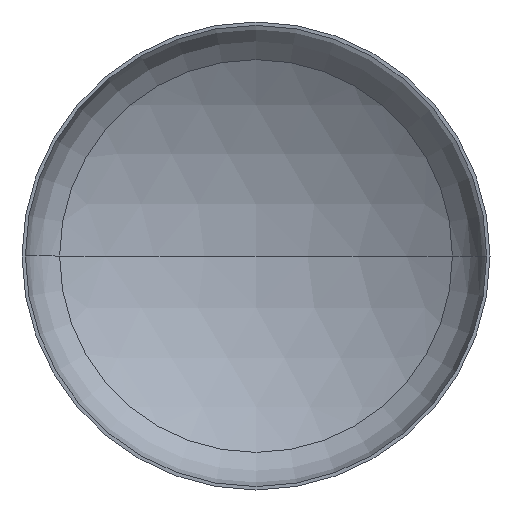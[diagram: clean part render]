
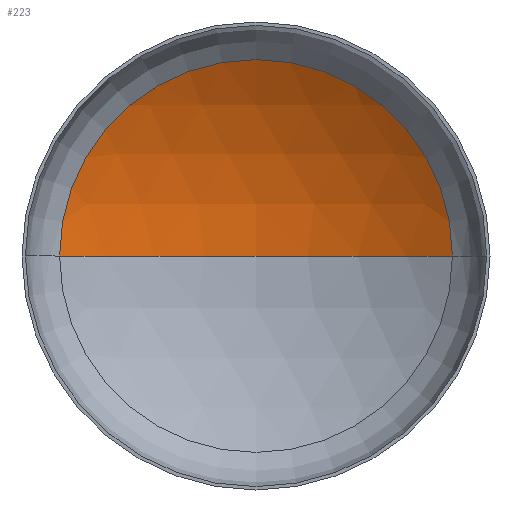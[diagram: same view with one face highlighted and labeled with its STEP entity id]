
A CAD part, front view. The second image highlights one B-rep face of the part: STEP entity #223.
In plain terms, the highlighted spherical face has radius 3200 mm.
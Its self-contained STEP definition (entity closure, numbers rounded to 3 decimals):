
#6 = EDGE_LOOP ( 'NONE', ( #67, #20, #11 ) ) ;
#11 = ORIENTED_EDGE ( 'NONE', *, *, #147, .T. ) ;
#12 = CARTESIAN_POINT ( 'NONE',  ( 0., -2110.793, 0. ) ) ;
#16 = DIRECTION ( 'NONE',  ( -1., 0., 0. ) ) ;
#20 = ORIENTED_EDGE ( 'NONE', *, *, #154, .T. ) ;
#21 = VERTEX_POINT ( 'NONE', #377 ) ;
#30 = VERTEX_POINT ( 'NONE', #267 ) ;
#37 = VERTEX_POINT ( 'NONE', #253 ) ;
#47 = AXIS2_PLACEMENT_3D ( 'NONE', #174, #245, #48 ) ;
#48 = DIRECTION ( 'NONE',  ( -1., 0., 0. ) ) ;
#67 = ORIENTED_EDGE ( 'NONE', *, *, #179, .F. ) ;
#75 = AXIS2_PLACEMENT_3D ( 'NONE', #187, #206, #207 ) ;
#82 = AXIS2_PLACEMENT_3D ( 'NONE', #12, #273, #16 ) ;
#93 = AXIS2_PLACEMENT_3D ( 'NONE', #213, #195, #197 ) ;
#147 = EDGE_CURVE ( 'NONE', #21, #37, #242, .T. ) ;
#150 = SPHERICAL_SURFACE ( 'NONE', #47, 3200. ) ;
#154 = EDGE_CURVE ( 'NONE', #30, #21, #405, .T. ) ;
#162 = CIRCLE ( 'NONE', #75, 3200. ) ;
#174 = CARTESIAN_POINT ( 'NONE',  ( 0., -2110.793, 0. ) ) ;
#179 = EDGE_CURVE ( 'NONE', #30, #37, #162, .T. ) ;
#187 = CARTESIAN_POINT ( 'NONE',  ( 0., -2110.793, 0. ) ) ;
#195 = DIRECTION ( 'NONE',  ( 0., -1., 0. ) ) ;
#197 = DIRECTION ( 'NONE',  ( 1., 0., 0. ) ) ;
#206 = DIRECTION ( 'NONE',  ( 0., 0., 1. ) ) ;
#207 = DIRECTION ( 'NONE',  ( 1., 0., 0. ) ) ;
#213 = CARTESIAN_POINT ( 'NONE',  ( 0., 613.593, 0. ) ) ;
#223 = ADVANCED_FACE ( 'NONE', ( #393 ), #150, .F. ) ;
#242 = CIRCLE ( 'NONE', #93, 1678.607 ) ;
#245 = DIRECTION ( 'NONE',  ( 0., 0., -1. ) ) ;
#253 = CARTESIAN_POINT ( 'NONE',  ( -1678.607, 613.593, 0. ) ) ;
#267 = CARTESIAN_POINT ( 'NONE',  ( 0., 1089.207, 0. ) ) ;
#273 = DIRECTION ( 'NONE',  ( 0., 0., -1. ) ) ;
#377 = CARTESIAN_POINT ( 'NONE',  ( 1678.607, 613.593, 0. ) ) ;
#393 = FACE_OUTER_BOUND ( 'NONE', #6, .T. ) ;
#405 = CIRCLE ( 'NONE', #82, 3200. ) ;
